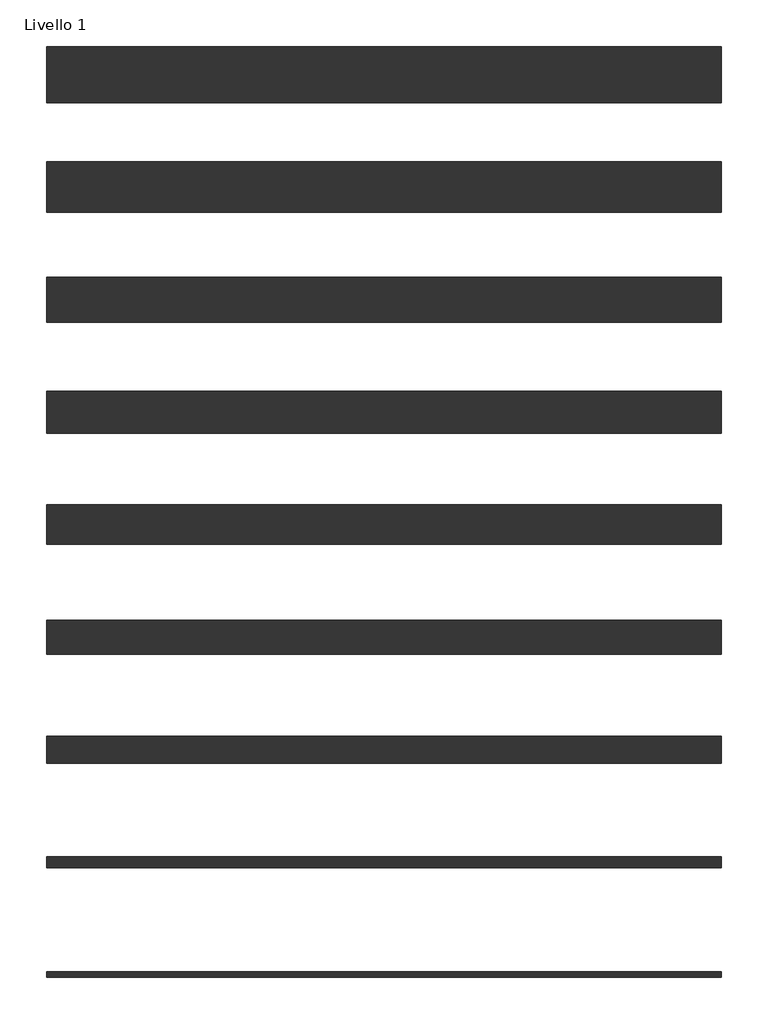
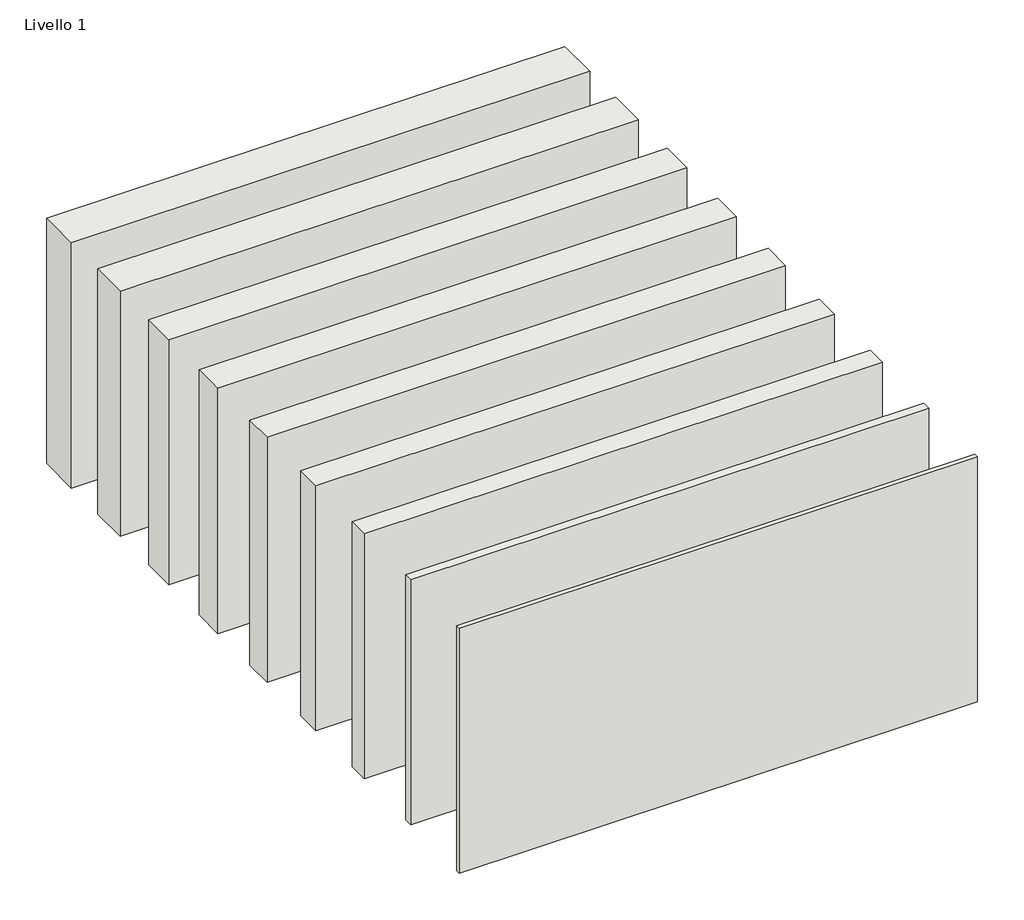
# One storey: 9 walls.
"""IFC4 building model written with IfcOpenShell, lengths in millimetres."""

from ifc_helpers import new_model, si_unit, origin, origin_with_axes, place, context, project, spatial, polyline, outline, extrude, element, save

model = new_model("IFC4")

# Units and contexts
model_context = context("Model", 3, world=origin())
ifc_project = project(units=[si_unit("LENGTHUNIT", "METRE", prefix="MILLI")], contexts=[model_context])

# Site, building, storey
site = spatial("IfcSite", under=ifc_project)
building = spatial("IfcBuilding", under=site)
storey = spatial("IfcBuildingStorey", under=building, Name="Livello 1", Elevation=0.0)

# Walls
placement = place(None, origin())
element("IfcWall", 1, ObjectType="GASBETON Active sp. 500 mm", at=placement, inside=storey, context=model_context, shape_type="SweptSolid", body=[
    extrude(outline(polyline([(2922.6532392, 7562.5170164), (-3077.3467608, 7562.5170164), (-3077.3467608, 8062.5170164), (2922.6532392, 8062.5170164), (2922.6532392, 7562.5170164)])), origin_with_axes(), (0.0, 0.0, 1.0), 3000.0),
])
element("IfcWall", 2, ObjectType="GASBETON Active sp. 450 mm", at=placement, inside=storey, context=model_context, shape_type="SweptSolid", body=[
    extrude(outline(polyline([(2922.6532392, 6587.5170164), (-3077.3467608, 6587.5170164), (-3077.3467608, 7037.5170164), (2922.6532392, 7037.5170164), (2922.6532392, 6587.5170164)])), origin_with_axes(), (0.0, 0.0, 1.0), 3000.0),
])
element("IfcWall", 3, ObjectType="GASBETON Active sp. 400 mm", at=placement, inside=storey, context=model_context, shape_type="SweptSolid", body=[
    extrude(outline(polyline([(2922.6532392, 5612.5170164), (-3077.3467608, 5612.5170164), (-3077.3467608, 6012.5170164), (2922.6532392, 6012.5170164), (2922.6532392, 5612.5170164)])), origin_with_axes(), (0.0, 0.0, 1.0), 3000.0),
])
element("IfcWall", 4, ObjectType="GASBETON Active sp. 375 mm", at=placement, inside=storey, context=model_context, shape_type="SweptSolid", body=[
    extrude(outline(polyline([(2922.6532392, 4625.0170164), (-3077.3467608, 4625.0170164), (-3077.3467608, 5000.0170164), (2922.6532392, 5000.0170164), (2922.6532392, 4625.0170164)])), origin_with_axes(), (0.0, 0.0, 1.0), 3000.0),
])
element("IfcWall", 5, ObjectType="GASBETON Active sp. 350 mm", at=placement, inside=storey, context=model_context, shape_type="SweptSolid", body=[
    extrude(outline(polyline([(2922.6532392, 3637.5170164), (-3077.3467608, 3637.5170164), (-3077.3467608, 3987.5170164), (2922.6532392, 3987.5170164), (2922.6532392, 3637.5170164)])), origin_with_axes(), (0.0, 0.0, 1.0), 3000.0),
])
element("IfcWall", 6, ObjectType="GASBETON Active sp. 300 mm", at=placement, inside=storey, context=model_context, shape_type="SweptSolid", body=[
    extrude(outline(polyline([(2922.6532392, 2662.5170164), (-3077.3467608, 2662.5170164), (-3077.3467608, 2962.5170164), (2922.6532392, 2962.5170164), (2922.6532392, 2662.5170164)])), origin_with_axes(), (0.0, 0.0, 1.0), 3000.0),
])
element("IfcWall", 7, ObjectType="GASBETON Active sp. 240 mm", at=placement, inside=storey, context=model_context, shape_type="SweptSolid", body=[
    extrude(outline(polyline([(2922.6532392, 1692.5170164), (-3077.3467608, 1692.5170164), (-3077.3467608, 1932.5170164), (2922.6532392, 1932.5170164), (2922.6532392, 1692.5170164)])), origin_with_axes(), (0.0, 0.0, 1.0), 3000.0),
])
element("IfcWall", 8, ObjectType="GASBETON Active sp. 100 mm", at=placement, inside=storey, context=model_context, shape_type="SweptSolid", body=[
    extrude(outline(polyline([(2922.6532392, 762.5170164), (-3077.3467608, 762.5170164), (-3077.3467608, 862.5170164), (2922.6532392, 862.5170164), (2922.6532392, 762.5170164)])), origin_with_axes(), (0.0, 0.0, 1.0), 3000.0),
])
element("IfcWall", 9, ObjectType="GASBETON Active sp. 50 mm", at=placement, inside=storey, context=model_context, shape_type="SweptSolid", body=[
    extrude(outline(polyline([(2922.6532392, -212.4829836), (-3077.3467608, -212.4829836), (-3077.3467608, -162.4829836), (2922.6532392, -162.4829836), (2922.6532392, -212.4829836)])), origin_with_axes(), (0.0, 0.0, 1.0), 3000.0),
])

save(model, "model.ifc")
